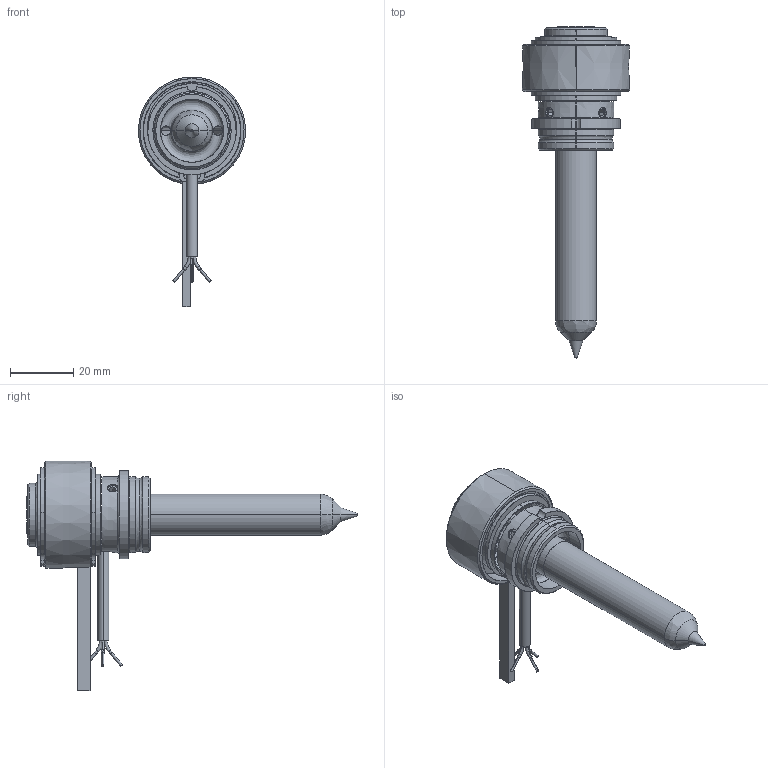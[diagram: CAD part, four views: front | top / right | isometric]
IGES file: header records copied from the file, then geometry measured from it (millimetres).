
Start section: SolidWorks IGES file using analytic representation for surfaces
Global section: file name: C:\Documents and Settings\ws-20\Desktop\TEM\UGGS2540-M-1 [Øf-0.68].IGS; native system: SolidWorks 2012; preprocessor: SolidWorks 2012; author: ws-20; date: 120516.093352; units: millimetre
Bounding box: 34 x 105.3 x 72.9 mm (x, y, z)
Surface area: 16183.3 mm2 (no closed solid volume)
Topology: 0 solids, 0 shells, 209 faces, 2911 edges, 2905 vertices
Faces by surface type: revolution 125, bspline 84
